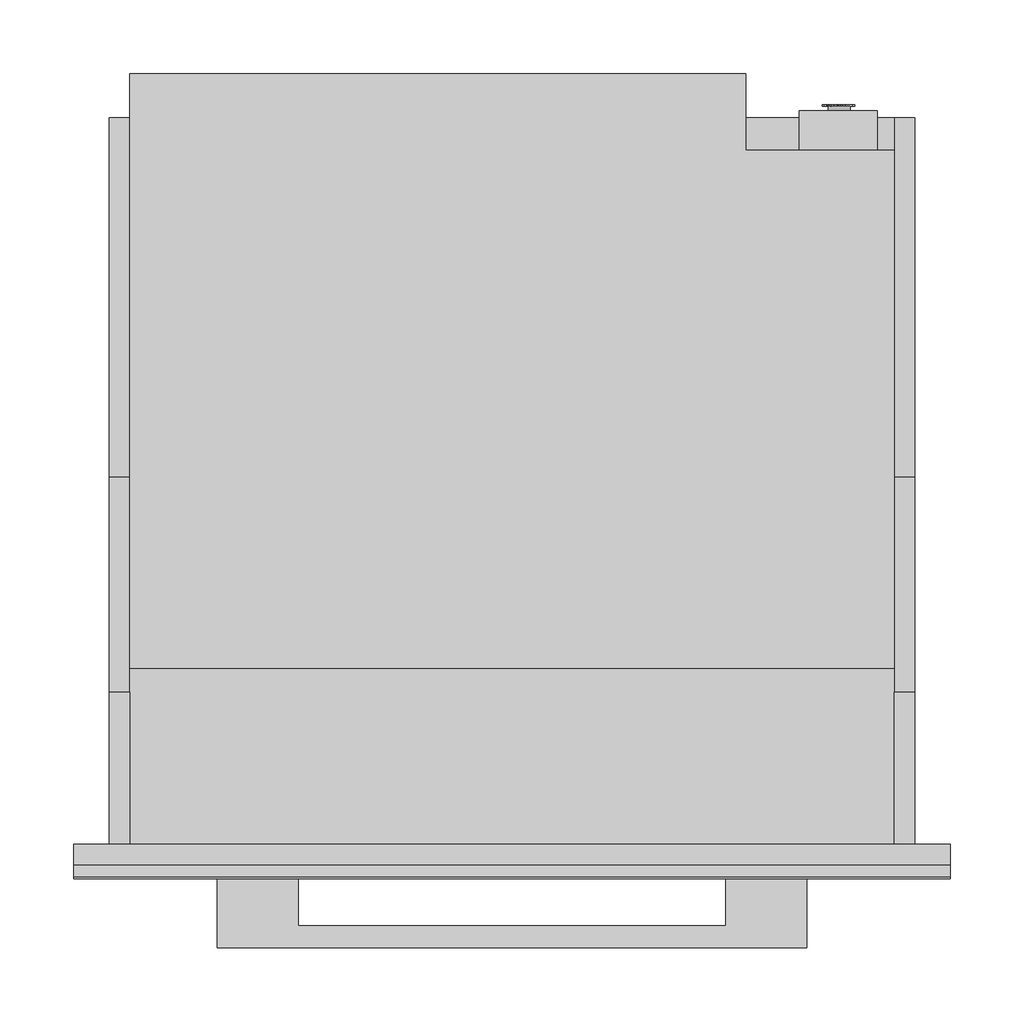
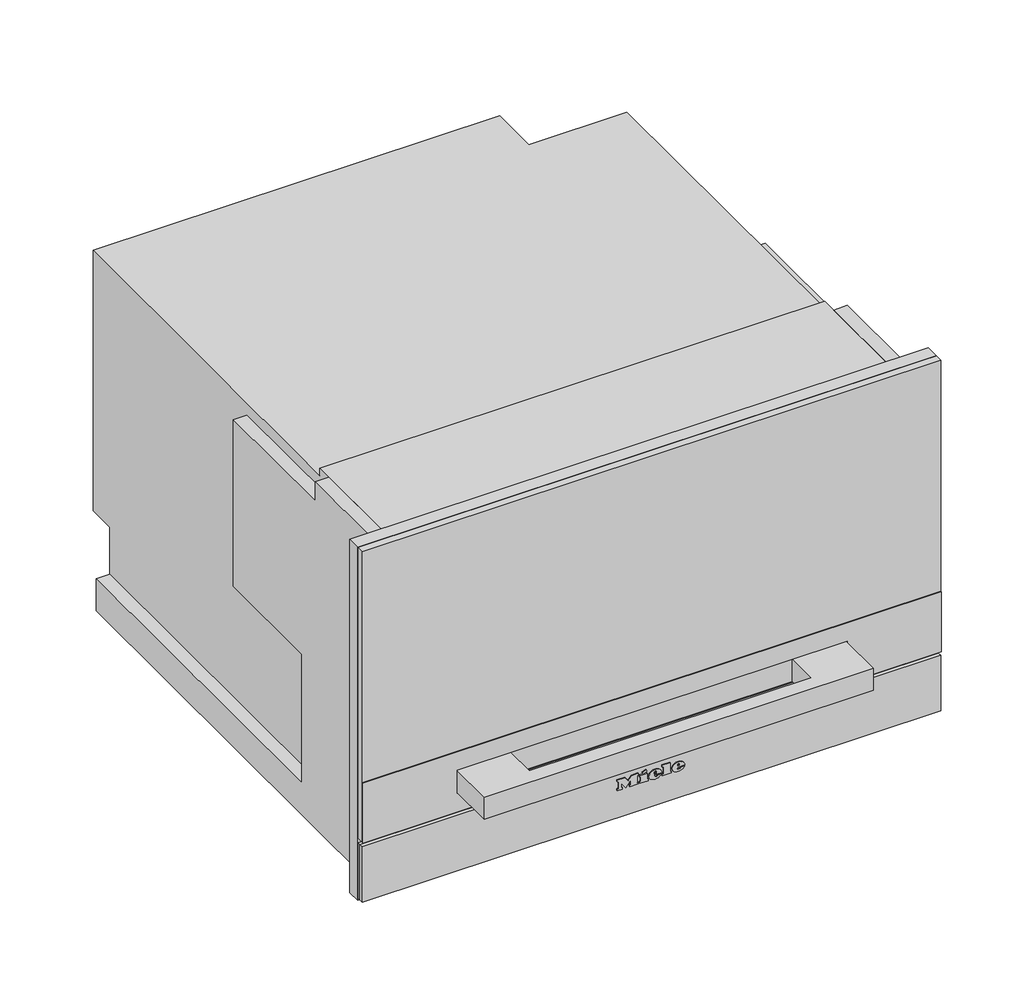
# Not in any storey: 1 proxy.
"""IFC4 building model written with IfcOpenShell, lengths in millimetres."""

from ifc_helpers import new_model, si_unit, origin, place, context, project, spatial, transform, mapped, element, save
from components import specialty_equipment_29e4d5af

model = new_model("IFC4")

# Units and contexts
model_context = context("Model", 3, world=origin())
ifc_project = project(units=[si_unit("LENGTHUNIT", "METRE", prefix="MILLI")], contexts=[model_context])

# Site, building
site = spatial("IfcSite", under=ifc_project)
building = spatial("IfcBuilding", under=site)

# Proxy
placement = place(None, origin())
specialty_equipment_shape = specialty_equipment_29e4d5af(model_context)
element("IfcBuildingElementProxy", 1, Name="10904270_CH_DGD7635_EDST-CLST : 23763545_CH_10904270_DGD7635_EDST-CLST", ObjectType="10904270_CH_DGD7635_EDST-CLST : 23763545_CH_10904270_DGD7635_EDST-CLST", at=placement, inside=building, context=model_context, shape_type="MappedRepresentation", body=[
    mapped(specialty_equipment_shape, transform((0.0, 0.0, 0.0), x_axis=(1.0, 0.0, 0.0), y_axis=(0.0, 1.0, 0.0), z_axis=(0.0, 0.0, 1.0))),
])

save(model, "model.ifc")
